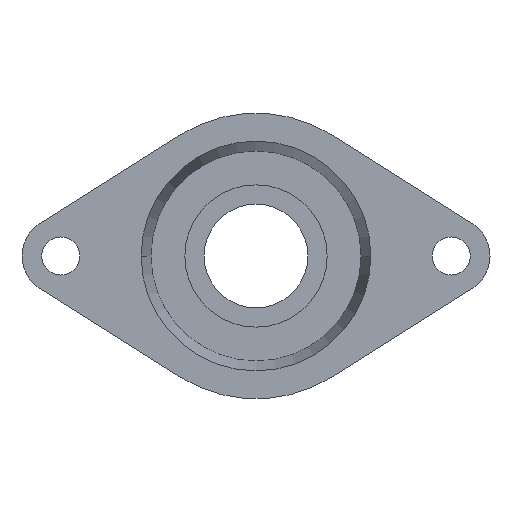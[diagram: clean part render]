
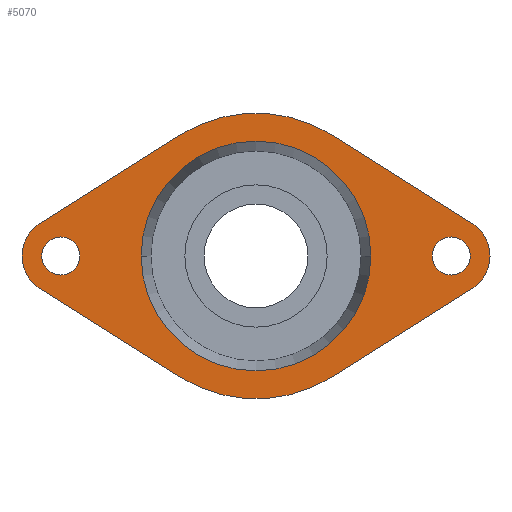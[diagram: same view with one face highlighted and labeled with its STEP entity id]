
A CAD part, left-side view. The second image highlights one B-rep face of the part: STEP entity #5070.
In plain terms, the highlighted planar face has unit normal (-1, 0, 0).
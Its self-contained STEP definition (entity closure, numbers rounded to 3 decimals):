
#120=CARTESIAN_POINT('',(-24.,42.215,0.));
#130=VERTEX_POINT('',#120);
#160=CARTESIAN_POINT('',(-24.,0.,0.));
#170=DIRECTION('',(-1.,0.,0.));
#180=DIRECTION('',(0.,1.,0.));
#190=AXIS2_PLACEMENT_3D('',#160,#170,#180);
#200=CIRCLE('',#190,42.215);
#210=CARTESIAN_POINT('',(-24.,-42.215,0.));
#220=VERTEX_POINT('VERTEX9321',#210);
#230=EDGE_CURVE('',#220,#130,#200,.T.);
#1140=CARTESIAN_POINT('',(-24.,-79.347,12.056));
#1150=VERTEX_POINT('',#1140);
#1180=CARTESIAN_POINT('',(-24.,0.,62.053));
#1190=DIRECTION('',(0.,-0.846,-0.533));
#1200=VECTOR('',#1190,1.);
#1210=LINE('',#1180,#1200);
#1220=CARTESIAN_POINT('',(-24.,-27.988,44.418));
#1230=VERTEX_POINT('',#1220);
#1240=EDGE_CURVE('',#1230,#1150,#1210,.T.);
#1400=CARTESIAN_POINT('',(-24.,0.,-62.053));
#1410=DIRECTION('',(0.,0.846,-0.533));
#1420=VECTOR('',#1410,1.);
#1430=LINE('',#1400,#1420);
#1440=CARTESIAN_POINT('',(-24.,-79.347,-12.056));
#1450=VERTEX_POINT('',#1440);
#1460=CARTESIAN_POINT('',(-24.,-27.988,-44.418));
#1470=VERTEX_POINT('',#1460);
#1480=EDGE_CURVE('',#1450,#1470,#1430,.T.);
#1750=CARTESIAN_POINT('',(-24.,-71.75,-7.));
#1760=VERTEX_POINT('',#1750);
#1790=CARTESIAN_POINT('',(-24.,-71.75,0.));
#1800=DIRECTION('',(1.,0.,0.));
#1810=DIRECTION('',(0.,0.,-1.));
#1820=AXIS2_PLACEMENT_3D('',#1790,#1800,#1810);
#1830=CIRCLE('',#1820,7.);
#1840=CARTESIAN_POINT('',(-24.,-71.75,7.));
#1850=VERTEX_POINT('VERTEX9328',#1840);
#1860=EDGE_CURVE('EDGE14059',#1760,#1850,#1830,.T.);
#2170=CARTESIAN_POINT('',(-24.,79.347,-12.056));
#2180=VERTEX_POINT('',#2170);
#2210=CARTESIAN_POINT('',(-24.,0.,-62.053));
#2220=DIRECTION('',(0.,0.846,0.533));
#2230=VECTOR('',#2220,1.);
#2240=LINE('',#2210,#2230);
#2250=CARTESIAN_POINT('',(-24.,27.988,-44.418));
#2260=VERTEX_POINT('',#2250);
#2270=EDGE_CURVE('',#2260,#2180,#2240,.T.);
#2460=CARTESIAN_POINT('',(-24.,-71.75,0.));
#2470=DIRECTION('',(-1.,0.,0.));
#2480=DIRECTION('',(0.,-0.533,0.846));
#2490=AXIS2_PLACEMENT_3D('',#2460,#2470,#2480);
#2500=CIRCLE('',#2490,14.25);
#2510=EDGE_CURVE('EDGE14064',#1450,#1150,#2500,.T.);
#2670=CARTESIAN_POINT('',(-24.,71.75,-7.));
#2680=VERTEX_POINT('VERTEX9334',#2670);
#2840=CARTESIAN_POINT('',(-24.,71.75,7.));
#2850=VERTEX_POINT('',#2840);
#2880=CARTESIAN_POINT('',(-24.,71.75,0.));
#2890=DIRECTION('',(1.,0.,0.));
#2900=DIRECTION('',(0.,0.,-1.));
#2910=AXIS2_PLACEMENT_3D('',#2880,#2890,#2900);
#2920=CIRCLE('',#2910,7.);
#2930=EDGE_CURVE('EDGE14073',#2850,#2680,#2920,.T.);
#3620=CARTESIAN_POINT('',(-24.,79.347,12.056));
#3630=VERTEX_POINT('',#3620);
#3660=CARTESIAN_POINT('',(-24.,71.75,0.));
#3670=DIRECTION('',(-1.,0.,0.));
#3680=DIRECTION('',(0.,0.533,-0.846));
#3690=AXIS2_PLACEMENT_3D('',#3660,#3670,#3680);
#3700=CIRCLE('',#3690,14.25);
#3710=EDGE_CURVE('EDGE14074',#3630,#2180,#3700,.T.);
#4010=CARTESIAN_POINT('',(-24.,0.,0.)
);
#4020=DIRECTION('',(-1.,0.,0.));
#4030=DIRECTION('',(0.,-0.533,-0.846));
#4040=AXIS2_PLACEMENT_3D('',#4010,#4020,#4030);
#4050=CIRCLE('',#4040,52.5);
#4060=EDGE_CURVE('',#2260,#1470,#4050,.T.);
#4450=CARTESIAN_POINT('',(-24.,0.,62.053));
#4460=DIRECTION('',(0.,-0.846,0.533));
#4470=VECTOR('',#4460,1.);
#4480=LINE('',#4450,#4470);
#4490=CARTESIAN_POINT('',(-24.,27.988,44.418));
#4500=VERTEX_POINT('',#4490);
#4510=EDGE_CURVE('',#3630,#4500,#4480,.T.);
#4650=CARTESIAN_POINT('',(-24.,0.,0.)
);
#4660=DIRECTION('',(-1.,0.,0.));
#4670=DIRECTION('',(0.,-0.533,-0.846));
#4680=AXIS2_PLACEMENT_3D('',#4650,#4660,#4670);
#4690=CIRCLE('',#4680,52.5);
#4700=EDGE_CURVE('',#1230,#4500,#4690,.T.);
#4770=CARTESIAN_POINT('',(-24.,107.107,0.));
#4780=DIRECTION('',(-1.,0.,0.));
#4790=DIRECTION('',(0.,1.,0.));
#4800=AXIS2_PLACEMENT_3D('',#4770,#4780,#4790);
#4810=PLANE('',#4800);
#4820=ORIENTED_EDGE('',*,*,#4510,.F.);
#4830=ORIENTED_EDGE('',*,*,#4700,.T.);
#4840=ORIENTED_EDGE('',*,*,#1240,.F.);
#4850=ORIENTED_EDGE('',*,*,#2510,.T.);
#4860=ORIENTED_EDGE('',*,*,#1480,.F.);
#4870=ORIENTED_EDGE('',*,*,#4060,.T.);
#4880=ORIENTED_EDGE('',*,*,#2270,.F.);
#4890=ORIENTED_EDGE('',*,*,#3710,.T.);
#4900=EDGE_LOOP('',(#4890,#4880,#4870,#4860,#4850,#4840,#4830,#4820));
#4910=FACE_OUTER_BOUND('',#4900,.T.);
#4920=EDGE_CURVE('',#1850,#1760,#1830,.T.);
#4930=ORIENTED_EDGE('',*,*,#4920,.T.);
#4940=ORIENTED_EDGE('',*,*,#1860,.T.);
#4950=EDGE_LOOP('',(#4940,#4930));
#4960=FACE_BOUND('',#4950,.T.);
#4970=ORIENTED_EDGE('',*,*,#230,.F.);
#4980=EDGE_CURVE('EDGE14049',#130,#220,#200,.T.);
#4990=ORIENTED_EDGE('',*,*,#4980,.F.);
#5000=EDGE_LOOP('',(#4990,#4970));
#5010=FACE_BOUND('',#5000,.T.);
#5020=EDGE_CURVE('',#2680,#2850,#2920,.T.);
#5030=ORIENTED_EDGE('',*,*,#5020,.T.);
#5040=ORIENTED_EDGE('',*,*,#2930,.T.);
#5050=EDGE_LOOP('',(#5040,#5030));
#5060=FACE_BOUND('',#5050,.T.);
#5070=ADVANCED_FACE('',(#4910,#4960,#5010,#5060),#4810,.T.);
